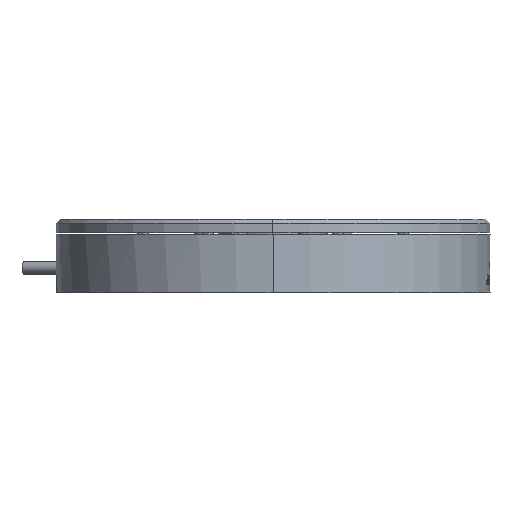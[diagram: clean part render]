
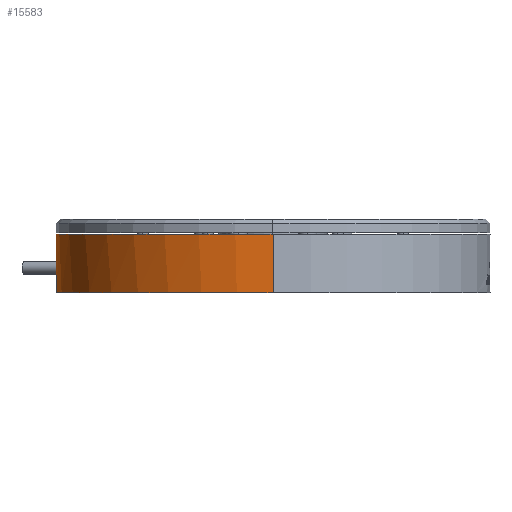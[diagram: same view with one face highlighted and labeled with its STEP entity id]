
A CAD part, left-side view. The second image highlights one B-rep face of the part: STEP entity #15583.
In plain terms, the highlighted cylindrical face has radius 50 mm (diameter 100 mm), a partial arc.
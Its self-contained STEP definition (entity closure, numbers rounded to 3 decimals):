
#407 = CARTESIAN_POINT ( 'NONE',  ( 50., 0., 13.5 ) ) ;
#583 = VERTEX_POINT ( 'NONE', #3801 ) ;
#739 = DIRECTION ( 'NONE',  ( 0., 0., 1. ) ) ;
#975 = CARTESIAN_POINT ( 'NONE',  ( 21.61, 45.089, 14.5 ) ) ;
#1628 = CARTESIAN_POINT ( 'NONE',  ( 50., 0., 0. ) ) ;
#1767 = EDGE_CURVE ( 'NONE', #14931, #13982, #2259, .T. ) ;
#1795 = DIRECTION ( 'NONE',  ( 1., 0., 0. ) ) ;
#1895 = CARTESIAN_POINT ( 'NONE',  ( 0., 0., 0. ) ) ;
#1922 = EDGE_LOOP ( 'NONE', ( #4754, #2100, #18113, #4955, #18835, #18949, #12486, #5207 ) ) ;
#2100 = ORIENTED_EDGE ( 'NONE', *, *, #6208, .T. ) ;
#2133 = EDGE_CURVE ( 'NONE', #10936, #17570, #7826, .T. ) ;
#2259 = CIRCLE ( 'NONE', #13104, 50. ) ;
#2515 = CIRCLE ( 'NONE', #10852, 50. ) ;
#2605 = CYLINDRICAL_SURFACE ( 'NONE', #3781, 50. ) ;
#2752 = VERTEX_POINT ( 'NONE', #15326 ) ;
#2862 = DIRECTION ( 'NONE',  ( 1., 0., 0. ) ) ;
#3655 = CIRCLE ( 'NONE', #5198, 50. ) ;
#3781 = AXIS2_PLACEMENT_3D ( 'NONE', #9763, #11313, #6672 ) ;
#3801 = CARTESIAN_POINT ( 'NONE',  ( -50., 0., 0. ) ) ;
#3837 = CARTESIAN_POINT ( 'NONE',  ( 23.839, 43.951, 7.25 ) ) ;
#4225 = DIRECTION ( 'NONE',  ( 0., 0., 1. ) ) ;
#4422 = VECTOR ( 'NONE', #5936, 1000. ) ;
#4455 = AXIS2_PLACEMENT_3D ( 'NONE', #8373, #4225, #2862 ) ;
#4484 = DIRECTION ( 'NONE',  ( 0., 0., -1. ) ) ;
#4741 = CARTESIAN_POINT ( 'NONE',  ( -50., 0., 13.5 ) ) ;
#4754 = ORIENTED_EDGE ( 'NONE', *, *, #2133, .F. ) ;
#4876 = LINE ( 'NONE', #9132, #13835 ) ;
#4955 = ORIENTED_EDGE ( 'NONE', *, *, #18091, .T. ) ;
#5198 = AXIS2_PLACEMENT_3D ( 'NONE', #1895, #10618, #1795 ) ;
#5207 = ORIENTED_EDGE ( 'NONE', *, *, #19082, .F. ) ;
#5726 = LINE ( 'NONE', #11314, #7471 ) ;
#5764 = VERTEX_POINT ( 'NONE', #9586 ) ;
#5936 = DIRECTION ( 'NONE',  ( 0., 0., 1. ) ) ;
#6208 = EDGE_CURVE ( 'NONE', #10936, #10387, #5726, .T. ) ;
#6455 = CARTESIAN_POINT ( 'NONE',  ( 21.61, 45.089, 7.25 ) ) ;
#6672 = DIRECTION ( 'NONE',  ( -1., 0., 0. ) ) ;
#6705 = EDGE_CURVE ( 'NONE', #14931, #5764, #8231, .T. ) ;
#6889 = DIRECTION ( 'NONE',  ( 0., 0., -1. ) ) ;
#7353 = CARTESIAN_POINT ( 'NONE',  ( 23.839, 43.951, 14.5 ) ) ;
#7452 = EDGE_CURVE ( 'NONE', #5764, #583, #3655, .T. ) ;
#7471 = VECTOR ( 'NONE', #17489, 1000. ) ;
#7826 = CIRCLE ( 'NONE', #4455, 50. ) ;
#8083 = DIRECTION ( 'NONE',  ( 1., 0., 0. ) ) ;
#8231 = LINE ( 'NONE', #975, #16744 ) ;
#8303 = FACE_OUTER_BOUND ( 'NONE', #1922, .T. ) ;
#8373 = CARTESIAN_POINT ( 'NONE',  ( 0., 0., 13.5 ) ) ;
#9132 = CARTESIAN_POINT ( 'NONE',  ( -50., 0., 14.5 ) ) ;
#9586 = CARTESIAN_POINT ( 'NONE',  ( 21.61, 45.089, 0. ) ) ;
#9763 = CARTESIAN_POINT ( 'NONE',  ( 0., 0., 14.5 ) ) ;
#10374 = DIRECTION ( 'NONE',  ( -1., 0., 0. ) ) ;
#10387 = VERTEX_POINT ( 'NONE', #1628 ) ;
#10618 = DIRECTION ( 'NONE',  ( 0., 0., 1. ) ) ;
#10768 = DIRECTION ( 'NONE',  ( 0., 0., -1. ) ) ;
#10852 = AXIS2_PLACEMENT_3D ( 'NONE', #18431, #739, #8083 ) ;
#10936 = VERTEX_POINT ( 'NONE', #407 ) ;
#11313 = DIRECTION ( 'NONE',  ( 0., 0., -1. ) ) ;
#11314 = CARTESIAN_POINT ( 'NONE',  ( 50., 0., 14.5 ) ) ;
#12486 = ORIENTED_EDGE ( 'NONE', *, *, #7452, .T. ) ;
#13104 = AXIS2_PLACEMENT_3D ( 'NONE', #17809, #4484, #10374 ) ;
#13562 = LINE ( 'NONE', #7353, #4422 ) ;
#13835 = VECTOR ( 'NONE', #10768, 1000. ) ;
#13982 = VERTEX_POINT ( 'NONE', #3837 ) ;
#14931 = VERTEX_POINT ( 'NONE', #6455 ) ;
#14958 = EDGE_CURVE ( 'NONE', #10387, #2752, #2515, .T. ) ;
#15326 = CARTESIAN_POINT ( 'NONE',  ( 23.839, 43.951, 0. ) ) ;
#15583 = ADVANCED_FACE ( 'NONE', ( #8303 ), #2605, .T. ) ;
#16744 = VECTOR ( 'NONE', #6889, 1000. ) ;
#17489 = DIRECTION ( 'NONE',  ( 0., 0., -1. ) ) ;
#17570 = VERTEX_POINT ( 'NONE', #4741 ) ;
#17809 = CARTESIAN_POINT ( 'NONE',  ( 0., 0., 7.25 ) ) ;
#18091 = EDGE_CURVE ( 'NONE', #2752, #13982, #13562, .T. ) ;
#18113 = ORIENTED_EDGE ( 'NONE', *, *, #14958, .T. ) ;
#18431 = CARTESIAN_POINT ( 'NONE',  ( 0., 0., 0. ) ) ;
#18835 = ORIENTED_EDGE ( 'NONE', *, *, #1767, .F. ) ;
#18949 = ORIENTED_EDGE ( 'NONE', *, *, #6705, .T. ) ;
#19082 = EDGE_CURVE ( 'NONE', #17570, #583, #4876, .T. ) ;
